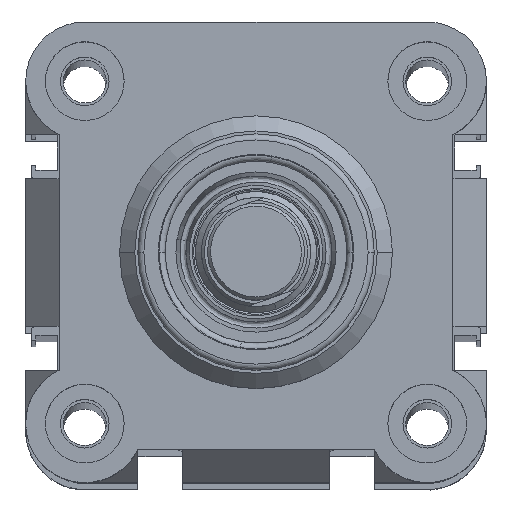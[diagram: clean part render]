
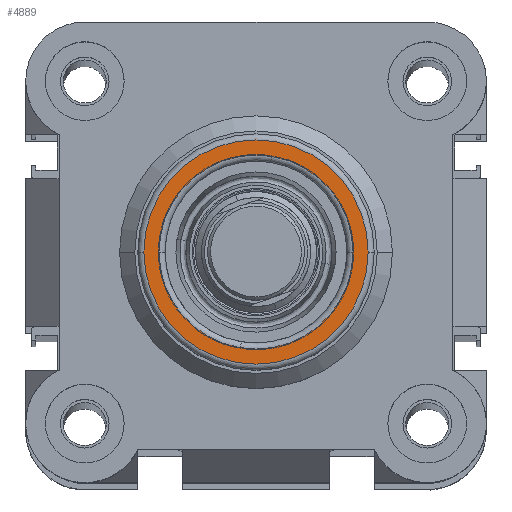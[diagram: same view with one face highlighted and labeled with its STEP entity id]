
A CAD part, top view. The second image highlights one B-rep face of the part: STEP entity #4889.
In plain terms, the highlighted planar face has unit normal (0, 0, 1).
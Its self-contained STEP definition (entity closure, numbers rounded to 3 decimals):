
#1 = VERTEX_POINT ( 'NONE', #8668 ) ;
#23 = PLANE ( 'NONE',  #4763 ) ;
#419 = ORIENTED_EDGE ( 'NONE', *, *, #18148, .T. ) ;
#828 = CIRCLE ( 'NONE', #12361, 18.5 ) ;
#856 = AXIS2_PLACEMENT_3D ( 'NONE', #4206, #10825, #4132 ) ;
#1587 = CIRCLE ( 'NONE', #856, 16. ) ;
#1681 = CARTESIAN_POINT ( 'NONE',  ( 38., 38., 62. ) ) ;
#1791 = AXIS2_PLACEMENT_3D ( 'NONE', #12726, #21055, #10805 ) ;
#2467 = DIRECTION ( 'NONE',  ( 0., 0., 1. ) ) ;
#3359 = DIRECTION ( 'NONE',  ( 1., 0., 0. ) ) ;
#3447 = CARTESIAN_POINT ( 'NONE',  ( 38., 38., 62. ) ) ;
#3913 = EDGE_CURVE ( 'NONE', #6106, #18019, #828, .T. ) ;
#4132 = DIRECTION ( 'NONE',  ( 1., 0., 0. ) ) ;
#4206 = CARTESIAN_POINT ( 'NONE',  ( 38., 38., 62. ) ) ;
#4763 = AXIS2_PLACEMENT_3D ( 'NONE', #1681, #13463, #3359 ) ;
#4774 = EDGE_LOOP ( 'NONE', ( #16359, #19517 ) ) ;
#4780 = VERTEX_POINT ( 'NONE', #10208 ) ;
#4889 = ADVANCED_FACE ( 'NONE', ( #10713, #9668 ), #23, .T. ) ;
#6106 = VERTEX_POINT ( 'NONE', #19980 ) ;
#6619 = CIRCLE ( 'NONE', #1791, 16. ) ;
#7929 = ORIENTED_EDGE ( 'NONE', *, *, #17331, .T. ) ;
#8668 = CARTESIAN_POINT ( 'NONE',  ( 22., 38., 62. ) ) ;
#9668 = FACE_OUTER_BOUND ( 'NONE', #4774, .T. ) ;
#9965 = EDGE_LOOP ( 'NONE', ( #7929, #419 ) ) ;
#10070 = DIRECTION ( 'NONE',  ( 1., 0., 0. ) ) ;
#10208 = CARTESIAN_POINT ( 'NONE',  ( 54., 38., 62. ) ) ;
#10579 = AXIS2_PLACEMENT_3D ( 'NONE', #3447, #11757, #10070 ) ;
#10713 = FACE_BOUND ( 'NONE', #9965, .T. ) ;
#10758 = CARTESIAN_POINT ( 'NONE',  ( 38., 38., 62. ) ) ;
#10805 = DIRECTION ( 'NONE',  ( 1., 0., 0. ) ) ;
#10825 = DIRECTION ( 'NONE',  ( 0., 0., -1. ) ) ;
#11757 = DIRECTION ( 'NONE',  ( 0., 0., 1. ) ) ;
#12361 = AXIS2_PLACEMENT_3D ( 'NONE', #10758, #2467, #19459 ) ;
#12591 = EDGE_CURVE ( 'NONE', #18019, #6106, #17775, .T. ) ;
#12726 = CARTESIAN_POINT ( 'NONE',  ( 38., 38., 62. ) ) ;
#13463 = DIRECTION ( 'NONE',  ( 0., 0., 1. ) ) ;
#16359 = ORIENTED_EDGE ( 'NONE', *, *, #3913, .T. ) ;
#16506 = CARTESIAN_POINT ( 'NONE',  ( 19.5, 38., 62. ) ) ;
#17331 = EDGE_CURVE ( 'NONE', #4780, #1, #6619, .T. ) ;
#17775 = CIRCLE ( 'NONE', #10579, 18.5 ) ;
#18019 = VERTEX_POINT ( 'NONE', #16506 ) ;
#18148 = EDGE_CURVE ( 'NONE', #1, #4780, #1587, .T. ) ;
#19459 = DIRECTION ( 'NONE',  ( 1., 0., 0. ) ) ;
#19517 = ORIENTED_EDGE ( 'NONE', *, *, #12591, .T. ) ;
#19980 = CARTESIAN_POINT ( 'NONE',  ( 56.5, 38., 62. ) ) ;
#21055 = DIRECTION ( 'NONE',  ( 0., 0., -1. ) ) ;
